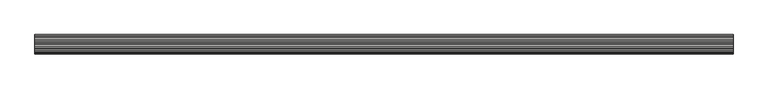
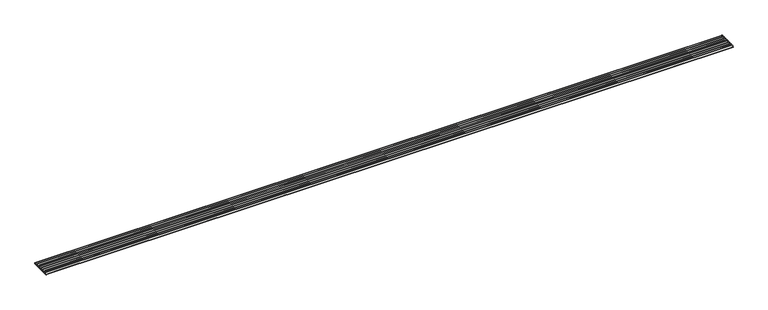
"""IFC4 building model written with IfcOpenShell, lengths in millimetres: slab geometry, ROSA GRES_003 : Pieza 003_Aqua_Marino_Anti-Slip."""

from ifc_helpers import new_model, si_unit, point, frame, frame_2d, origin, place, context, project, spatial, polyline, circle_curve, trimmed, segment, composite_curve, outline, extrude, source, transform, mapped, element, save


def slab_43fa2834(model_context):
    return source(origin(), model_context, "Body", "SweptSolid", [
        extrude(outline(composite_curve([segment(polyline([(7.6419163, 9.4971975), (13.1748183, 9.4971975), (13.1748183, 4.0921512), (114.6668888, 4.0921512), (114.6668888, 10.0184612)]), True, "CONTINUOUS"), segment(trimmed(circle_curve(frame_2d((118.9168888, 13.6516438)), 5.5912893), [point((114.6668888, 10.0184612))], [point((118.9168888, 8.0603545))], True, "CARTESIAN"), True, "CONTINUOUS"), segment(polyline([(118.9168888, 8.0603545), (118.9168888, 0.0), (1.8518481, 0.0), (0.5422562, 1.309592)]), True, "CONTINUOUS"), segment(trimmed(circle_curve(frame_2d((1.9104791, 2.6778148)), 1.9349594), [point((0.5422562, 1.309592))], [point((0.0, 2.9846331))], False, "CARTESIAN"), True, "CONTINUOUS"), segment(trimmed(circle_curve(frame_2d((7.6419163, 1.7573601)), 7.7398374), [point((0.0, 2.9846331))], [point((7.6419163, 9.4971975))], False, "CARTESIAN"), True, "CONTINUOUS")], self_intersect=False)), frame((0.0, 0.0, 0.0), z_axis=(1.0, 0.0, 0.0), x_axis=(0.0, 1.0, 0.0)), (0.0, 0.0, 1.0), 4280.0),
        extrude(outline(composite_curve([segment(trimmed(circle_curve(frame_2d((110.4168888, 13.6516438)), 5.5912893), [point((106.1668888, 10.0184612))], [point((114.6668888, 10.0184612))], True, "CARTESIAN"), True, "CONTINUOUS"), segment(polyline([(114.6668888, 10.0184612), (114.6668888, 4.0921512), (106.1668888, 4.0921512), (106.1668888, 10.0184612)]), True, "CONTINUOUS")], self_intersect=False)), frame((0.0, 0.0, 0.0), z_axis=(1.0, 0.0, 0.0), x_axis=(0.0, 1.0, 0.0)), (0.0, 0.0, 1.0), 4280.0),
        extrude(outline(polyline([(4280.0, 89.1668888), (4280.0, 72.1668888), (0.0, 72.1668888), (0.0, 89.1668888), (4280.0, 89.1668888)])), frame((0.0, 0.0, 4.0921512), z_axis=(0.0, 0.0, 1.0), x_axis=(1.0, 0.0, 0.0)), (0.0, 0.0, 1.0), 2.92631),
        extrude(outline(polyline([(4280.0, 55.1668888), (4280.0, 38.1668888), (0.0, 38.1668888), (0.0, 55.1668888), (4280.0, 55.1668888)])), frame((0.0, 0.0, 4.0921512), z_axis=(0.0, 0.0, 1.0), x_axis=(1.0, 0.0, 0.0)), (0.0, 0.0, 1.0), 2.92631),
        extrude(outline(composite_curve([segment(trimmed(circle_curve(frame_2d((16.9168888, 13.6516438)), 5.5912893), [point((13.1748183, 9.4971975))], [point((21.1668888, 10.0184612))], True, "CARTESIAN"), True, "CONTINUOUS"), segment(polyline([(21.1668888, 10.0184612), (21.1668888, 4.0921512), (13.1748183, 4.0921512), (13.1748183, 9.4971975)]), True, "CONTINUOUS")], self_intersect=False)), frame((0.0, 0.0, 0.0), z_axis=(1.0, 0.0, 0.0), x_axis=(0.0, 1.0, 0.0)), (0.0, 0.0, 1.0), 4280.0),
        extrude(outline(composite_curve([segment(trimmed(circle_curve(frame_2d((25.4168888, 13.6553338)), 5.5912893), [point((21.1668888, 10.0221512))], [point((29.6668888, 10.0221512))], True, "CARTESIAN"), True, "CONTINUOUS"), segment(trimmed(circle_curve(frame_2d((33.9168888, 13.6553338)), 5.5912893), [point((29.6668888, 10.0221512))], [point((38.1668888, 10.0221512))], True, "CARTESIAN"), True, "CONTINUOUS"), segment(trimmed(circle_curve(frame_2d((42.4168888, 13.6553338)), 5.5912893), [point((38.1668888, 10.0221512))], [point((46.6668888, 10.0221512))], True, "CARTESIAN"), True, "CONTINUOUS"), segment(trimmed(circle_curve(frame_2d((50.9168888, 13.6553338)), 5.5912893), [point((46.6668888, 10.0221512))], [point((55.1668888, 10.0221512))], True, "CARTESIAN"), True, "CONTINUOUS"), segment(trimmed(circle_curve(frame_2d((59.4168888, 13.6553338)), 5.5912893), [point((55.1668888, 10.0221512))], [point((63.6668888, 10.0221512))], True, "CARTESIAN"), True, "CONTINUOUS"), segment(trimmed(circle_curve(frame_2d((67.9168888, 13.6553338)), 5.5912893), [point((63.6668888, 10.0221512))], [point((72.1668888, 10.0221512))], True, "CARTESIAN"), True, "CONTINUOUS"), segment(trimmed(circle_curve(frame_2d((76.4168888, 13.6553338)), 5.5912893), [point((72.1668888, 10.0221512))], [point((80.6668888, 10.0221512))], True, "CARTESIAN"), True, "CONTINUOUS"), segment(trimmed(circle_curve(frame_2d((84.9168888, 13.6553338)), 5.5912893), [point((80.6668888, 10.0221512))], [point((89.1668888, 10.0221512))], True, "CARTESIAN"), True, "CONTINUOUS"), segment(trimmed(circle_curve(frame_2d((93.4168888, 13.6553338)), 5.5912893), [point((89.1668888, 10.0221512))], [point((97.6668888, 10.0221512))], True, "CARTESIAN"), True, "CONTINUOUS"), segment(trimmed(circle_curve(frame_2d((101.9168888, 13.6553338)), 5.5912893), [point((97.6668888, 10.0221512))], [point((106.1668888, 10.0221512))], True, "CARTESIAN"), True, "CONTINUOUS"), segment(polyline([(106.1668888, 10.0221512), (106.1668888, 4.0921512), (89.1668888, 4.0921512), (89.1668888, 7.0184612), (72.1668888, 7.0184612), (72.1668888, 4.0921512), (55.1668888, 4.0921512), (55.1668888, 7.0184612), (38.1668888, 7.0184612), (38.1668888, 4.0921512), (21.1668888, 4.0921512), (21.1668888, 10.0221512)]), True, "CONTINUOUS")], self_intersect=False)), frame((0.0, 0.0, 0.0), z_axis=(1.0, 0.0, 0.0), x_axis=(0.0, 1.0, 0.0)), (0.0, 0.0, 1.0), 4280.0),
    ])


if __name__ == "__main__":
    model = new_model("IFC4")
    model_context = context("Model", 3, world=origin())
    ifc_project = project(units=[si_unit("LENGTHUNIT", "METRE", prefix="MILLI")], contexts=[model_context])
    site = spatial("IfcSite", under=ifc_project)
    building = spatial("IfcBuilding", under=site)
    placement = place(None, origin())
    slab_shape = slab_43fa2834(model_context)
    element("IfcSlab", 1, ObjectType="ROSA GRES_003 : Pieza 003_Aqua_Marino_Anti-Slip", at=placement, inside=building, context=model_context, shape_type="MappedRepresentation", body=[
        mapped(slab_shape, transform((0.0, 0.0, 0.0), x_axis=(1.0, 0.0, 0.0), y_axis=(0.0, 1.0, 0.0), z_axis=(0.0, 0.0, 1.0))),
    ])
    save(model, "model.ifc")
